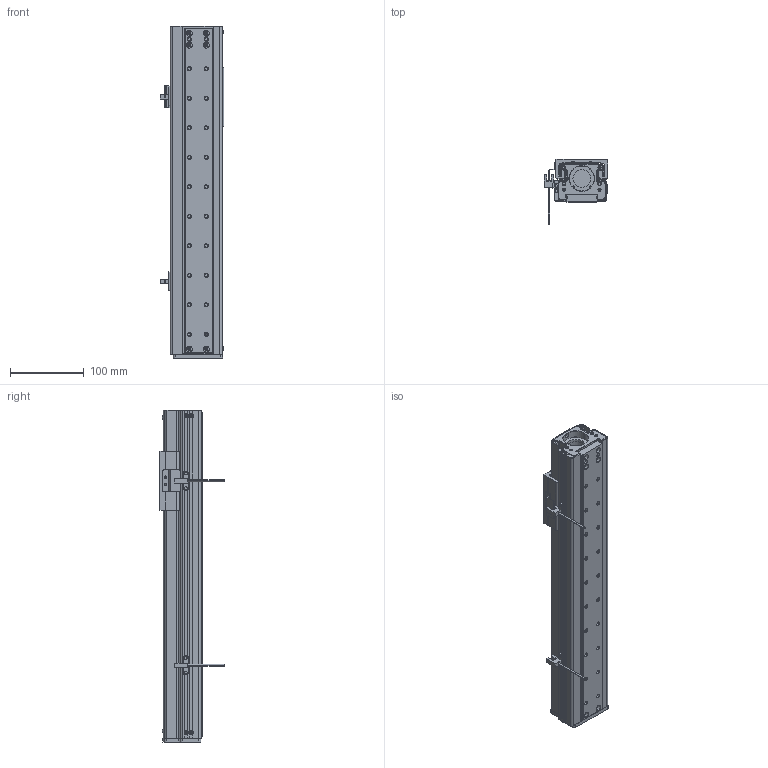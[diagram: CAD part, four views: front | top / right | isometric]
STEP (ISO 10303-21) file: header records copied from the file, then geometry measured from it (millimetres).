
FILE_DESCRIPTION (( 'STEP AP203' ), '1' );
FILE_NAME ('CTHM6-S250.STEP', '2019-12-18T01:43:52', ( '微软用户' ), ( '微软中国' ), 'SwSTEP 2.0', 'SolidWorks 2017', '' );
FILE_SCHEMA (( 'CONFIG_CONTROL_DESIGN' ));
Length unit declared in the file: millimetre
Products named in the file (17): 侧挡板2(带磁条修改厚度); 固定侧轴承座(自制轴承座); M3-L6半圆头内六角螺丝; 羲壽え; M3-L6囀鞠褒蹟佪; 支持侧轴承座(带磁条); EE-SX672-BR; 遣喳蝶15x12x8; 滅袉蝶; MG60裔啣; CTHM6-S250; 耜結啣(湍羞); LMW15奻窅; DG60傷裔(祥結傷裔); 蟀諉釱(裔啣党蜊); M4-L10囀鞠褒蹟佪; LMW15AA
Assembly tree (29 placements, depth 2):
  CTHM6-S250
    LMW15奻窅
    蟀諉釱(裔啣党蜊)
    LMW15AA
    固定侧轴承座(自制轴承座)
    羲壽え
    支持侧轴承座(带磁条)
    遣喳蝶15x12x8  x2
    MG60裔啣
    耜結啣(湍羞)
    DG60傷裔(祥結傷裔)
    M4-L10囀鞠褒蹟佪  x2
    侧挡板2(带磁条修改厚度)
    M3-L6半圆头内六角螺丝  x8
    M3-L6囀鞠褒蹟佪  x4
    EE-SX672-BR  x2
    滅袉蝶
Bounding box: 86.7 x 87.8 x 450 mm (x, y, z)
Volume: 566979.5 mm3; surface area: 364309.5 mm2
Topology: 33 solids, 33 shells, 1821 faces, 4702 edges, 2912 vertices
Faces by surface type: plane 768, cylinder 649, cone 290, torus 88, bspline 26
Entity records: 49572 total; most frequent: CARTESIAN_POINT 10515, DIRECTION 7942, ORIENTED_EDGE 7620, EDGE_CURVE 3810, AXIS2_PLACEMENT_3D 2940, VERTEX_POINT 2413, LINE 2062, VECTOR 2062
